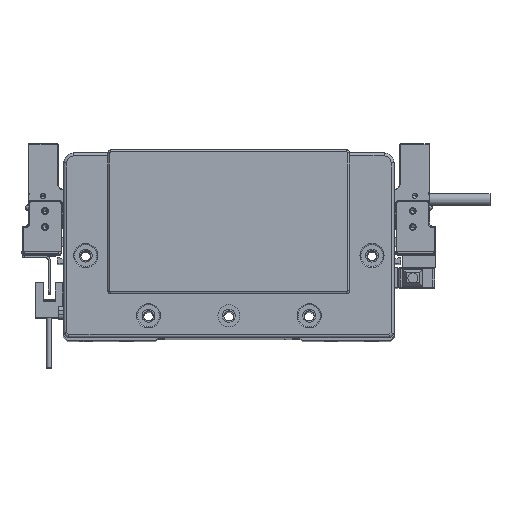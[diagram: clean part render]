
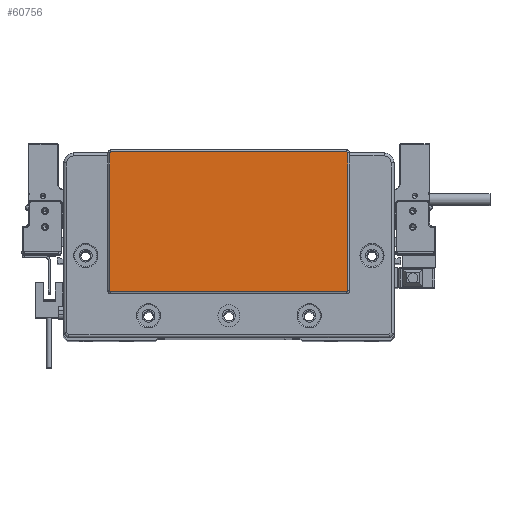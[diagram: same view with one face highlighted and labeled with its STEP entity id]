
A CAD part, top view. The second image highlights one B-rep face of the part: STEP entity #60756.
In plain terms, the highlighted planar face has unit normal (0, 0, 1) as drawn and (0, 0, -1) by its records, which use the part's own axes.
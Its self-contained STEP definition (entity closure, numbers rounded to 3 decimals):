
#1401 = DIRECTION ( 'NONE',  ( 0., 0., -1. ) ) ;
#3765 = CIRCLE ( 'NONE', #22791, 0.5 ) ;
#7771 = DIRECTION ( 'NONE',  ( -1., 0., 0. ) ) ;
#8842 = CARTESIAN_POINT ( 'NONE',  ( -58.75, -23.8, -2. ) ) ;
#9855 = ORIENTED_EDGE ( 'NONE', *, *, #67212, .T. ) ;
#10376 = LINE ( 'NONE', #34681, #61228 ) ;
#10618 = DIRECTION ( 'NONE',  ( 0., 0., -1. ) ) ;
#12571 = VERTEX_POINT ( 'NONE', #50143 ) ;
#15266 = CARTESIAN_POINT ( 'NONE',  ( -59.25, -23.3, -2. ) ) ;
#16257 = CARTESIAN_POINT ( 'NONE',  ( -59.25, 45.3, -2. ) ) ;
#17145 = DIRECTION ( 'NONE',  ( 1., 0., 0. ) ) ;
#17380 = CARTESIAN_POINT ( 'NONE',  ( 58.75, 45.3, -2. ) ) ;
#18963 = AXIS2_PLACEMENT_3D ( 'NONE', #21987, #64101, #21601 ) ;
#21003 = AXIS2_PLACEMENT_3D ( 'NONE', #17380, #10618, #41277 ) ;
#21428 = DIRECTION ( 'NONE',  ( 0., 0., -1. ) ) ;
#21601 = DIRECTION ( 'NONE',  ( -1., 0., 0. ) ) ;
#21987 = CARTESIAN_POINT ( 'NONE',  ( 58.75, -23.3, -2. ) ) ;
#22791 = AXIS2_PLACEMENT_3D ( 'NONE', #48796, #42833, #35687 ) ;
#23770 = EDGE_CURVE ( 'NONE', #54590, #32395, #35476, .T. ) ;
#25426 = CARTESIAN_POINT ( 'NONE',  ( 59.25, -23.3, -2. ) ) ;
#28896 = VERTEX_POINT ( 'NONE', #32076 ) ;
#31977 = VECTOR ( 'NONE', #76687, 1000. ) ;
#32076 = CARTESIAN_POINT ( 'NONE',  ( 59.25, 45.3, -2. ) ) ;
#32395 = VERTEX_POINT ( 'NONE', #43013 ) ;
#34244 = VERTEX_POINT ( 'NONE', #40983 ) ;
#34564 = LINE ( 'NONE', #16257, #31977 ) ;
#34681 = CARTESIAN_POINT ( 'NONE',  ( 58.75, 45.8, -2. ) ) ;
#34738 = EDGE_CURVE ( 'NONE', #35529, #28896, #36293, .T. ) ;
#35303 = ORIENTED_EDGE ( 'NONE', *, *, #34738, .T. ) ;
#35476 = CIRCLE ( 'NONE', #18963, 0.5 ) ;
#35529 = VERTEX_POINT ( 'NONE', #44136 ) ;
#35687 = DIRECTION ( 'NONE',  ( -1., 0., 0. ) ) ;
#36293 = CIRCLE ( 'NONE', #21003, 0.5 ) ;
#37650 = AXIS2_PLACEMENT_3D ( 'NONE', #51628, #21428, #45700 ) ;
#38086 = CIRCLE ( 'NONE', #49502, 0.5 ) ;
#40012 = ORIENTED_EDGE ( 'NONE', *, *, #77796, .T. ) ;
#40983 = CARTESIAN_POINT ( 'NONE',  ( -58.75, 45.8, -2. ) ) ;
#41277 = DIRECTION ( 'NONE',  ( -1., 0., 0. ) ) ;
#42575 = EDGE_LOOP ( 'NONE', ( #67608, #70999, #56103, #61583, #56457, #9855, #40012, #35303 ) ) ;
#42833 = DIRECTION ( 'NONE',  ( 0., 0., -1. ) ) ;
#43013 = CARTESIAN_POINT ( 'NONE',  ( 58.75, -23.8, -2. ) ) ;
#43212 = DIRECTION ( 'NONE',  ( -1., 0., 0. ) ) ;
#44136 = CARTESIAN_POINT ( 'NONE',  ( 58.75, 45.8, -2. ) ) ;
#45700 = DIRECTION ( 'NONE',  ( -1., 0., 0. ) ) ;
#48796 = CARTESIAN_POINT ( 'NONE',  ( -58.75, -23.3, -2. ) ) ;
#49502 = AXIS2_PLACEMENT_3D ( 'NONE', #50328, #1401, #7771 ) ;
#50143 = CARTESIAN_POINT ( 'NONE',  ( -59.25, 45.3, -2. ) ) ;
#50328 = CARTESIAN_POINT ( 'NONE',  ( -58.75, 45.3, -2. ) ) ;
#51245 = PLANE ( 'NONE',  #37650 ) ;
#51628 = CARTESIAN_POINT ( 'NONE',  ( 0., 0., -2. ) ) ;
#54318 = VERTEX_POINT ( 'NONE', #15266 ) ;
#54590 = VERTEX_POINT ( 'NONE', #61328 ) ;
#54873 = LINE ( 'NONE', #25426, #70484 ) ;
#55689 = VECTOR ( 'NONE', #43212, 1000. ) ;
#56103 = ORIENTED_EDGE ( 'NONE', *, *, #66056, .T. ) ;
#56457 = ORIENTED_EDGE ( 'NONE', *, *, #77068, .T. ) ;
#58412 = VERTEX_POINT ( 'NONE', #70950 ) ;
#60756 = ADVANCED_FACE ( 'NONE', ( #74308 ), #51245, .T. ) ;
#61196 = DIRECTION ( 'NONE',  ( 0., -1., 0. ) ) ;
#61228 = VECTOR ( 'NONE', #17145, 1000. ) ;
#61328 = CARTESIAN_POINT ( 'NONE',  ( 59.25, -23.3, -2. ) ) ;
#61583 = ORIENTED_EDGE ( 'NONE', *, *, #68474, .T. ) ;
#63157 = EDGE_CURVE ( 'NONE', #28896, #54590, #54873, .T. ) ;
#63299 = LINE ( 'NONE', #8842, #55689 ) ;
#64101 = DIRECTION ( 'NONE',  ( 0., 0., -1. ) ) ;
#66056 = EDGE_CURVE ( 'NONE', #32395, #58412, #63299, .T. ) ;
#67212 = EDGE_CURVE ( 'NONE', #12571, #34244, #38086, .T. ) ;
#67608 = ORIENTED_EDGE ( 'NONE', *, *, #63157, .T. ) ;
#68474 = EDGE_CURVE ( 'NONE', #58412, #54318, #3765, .T. ) ;
#70484 = VECTOR ( 'NONE', #61196, 1000. ) ;
#70950 = CARTESIAN_POINT ( 'NONE',  ( -58.75, -23.8, -2. ) ) ;
#70999 = ORIENTED_EDGE ( 'NONE', *, *, #23770, .T. ) ;
#74308 = FACE_OUTER_BOUND ( 'NONE', #42575, .T. ) ;
#76687 = DIRECTION ( 'NONE',  ( 0., 1., 0. ) ) ;
#77068 = EDGE_CURVE ( 'NONE', #54318, #12571, #34564, .T. ) ;
#77796 = EDGE_CURVE ( 'NONE', #34244, #35529, #10376, .T. ) ;
